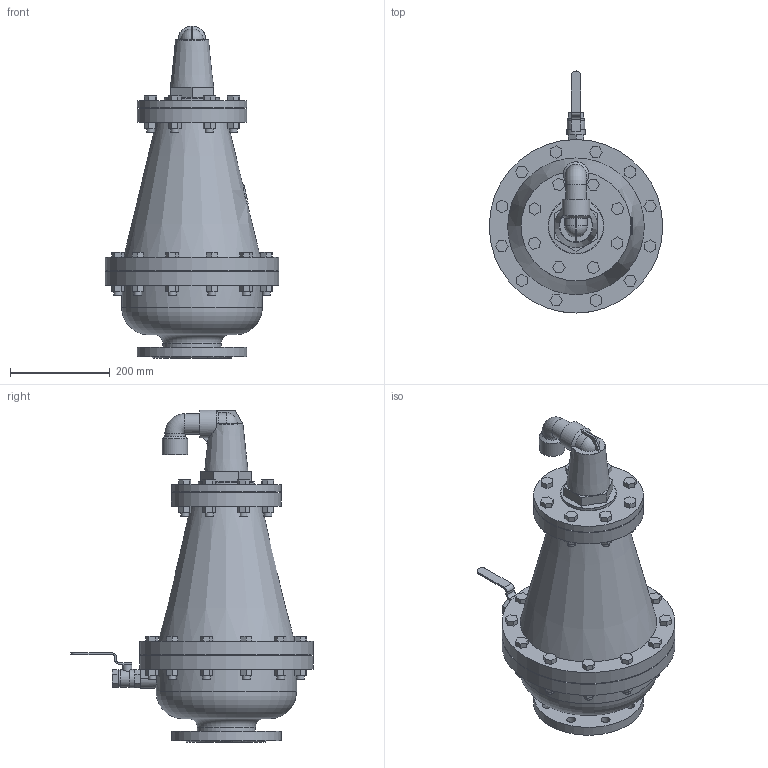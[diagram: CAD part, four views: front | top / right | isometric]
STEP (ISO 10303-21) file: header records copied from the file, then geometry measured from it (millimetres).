
FILE_DESCRIPTION(('STEP AP203'), '1');
FILE_NAME('A10FK_Dn100_左泱眄', '', ('UNSPECIFIED'), ('UNSPECIFIED'), 'ASCON STEP Converter 1.6', 'ASCON Math Kernel', '');
FILE_SCHEMA(('CONFIG_CONTROL_DESIGN'));
Length unit declared in the file: millimetre
Bounding box: 348 x 485.67 x 666 mm (x, y, z)
Volume: 7967715 mm3; surface area: 1164835.9 mm2
Topology: 1 solids, 2 shells, 607 faces, 1536 edges, 1005 vertices
Faces by surface type: plane 476, cylinder 89, cone 34, torus 6, sphere 2
Full cylindrical faces by diameter (mm): 16 x20, 18 x9, 18.5 x1, 33 x1, 35 x1, 37 x1, 41 x2, 43 x1, 51 x1, 56 x1, 86 x1, 100 x1, 110 x1, 112 x1, 117 x1, 220 x3, 282 x1, 348 x2
Entity records: 24527 total; most frequent: CARTESIAN_POINT 5204, ORIENTED_EDGE 2894, DIRECTION 2856, EDGE_CURVE 1447, LINE 1138, VECTOR 1138, VERTEX_POINT 1004, AXIS2_PLACEMENT_3D 859
